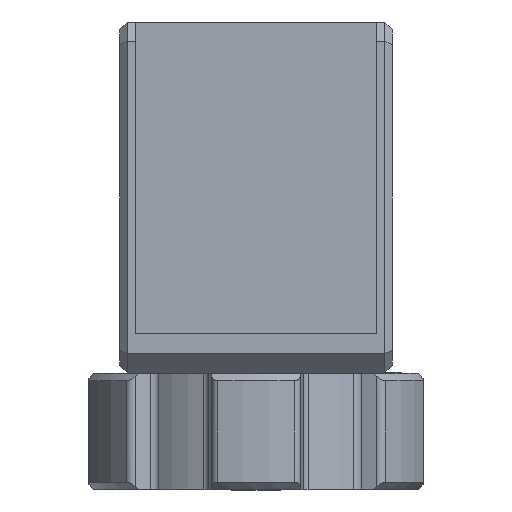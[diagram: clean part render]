
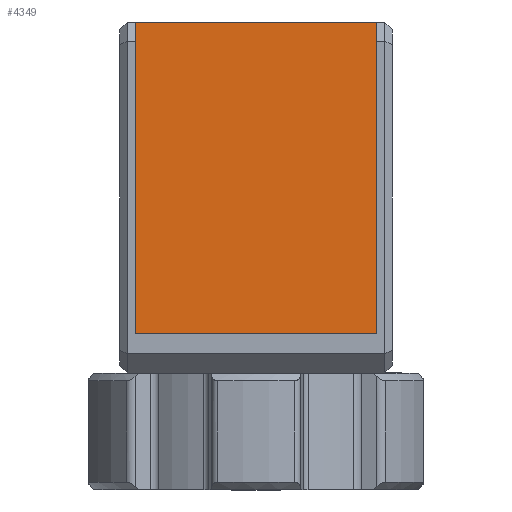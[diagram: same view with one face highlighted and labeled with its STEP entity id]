
A CAD part, front view. The second image highlights one B-rep face of the part: STEP entity #4349.
In plain terms, the highlighted planar face has unit normal (0, -1, 0).
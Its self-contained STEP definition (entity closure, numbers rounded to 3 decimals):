
#651=FACE_OUTER_BOUND('',#896,.T.);
#896=EDGE_LOOP('',(#3988,#3989,#3990,#3991));
#1210=LINE('',#13571,#1590);
#1214=LINE('',#13578,#1594);
#1263=LINE('',#13682,#1643);
#1277=LINE('',#13716,#1657);
#1590=VECTOR('',#5546,10.);
#1594=VECTOR('',#5552,10.);
#1643=VECTOR('',#5643,10.);
#1657=VECTOR('',#5685,10.);
#2024=VERTEX_POINT('',#13568);
#2025=VERTEX_POINT('',#13570);
#2027=VERTEX_POINT('',#13576);
#2061=VERTEX_POINT('',#13680);
#2637=EDGE_CURVE('',#2024,#2025,#1210,.T.);
#2641=EDGE_CURVE('',#2024,#2027,#1214,.T.);
#2693=EDGE_CURVE('',#2061,#2027,#1263,.T.);
#2710=EDGE_CURVE('',#2025,#2061,#1277,.T.);
#3988=ORIENTED_EDGE('',*,*,#2710,.F.);
#3989=ORIENTED_EDGE('',*,*,#2637,.F.);
#3990=ORIENTED_EDGE('',*,*,#2641,.T.);
#3991=ORIENTED_EDGE('',*,*,#2693,.F.);
#4109=PLANE('',#4678);
#4349=ADVANCED_FACE('',(#651),#4109,.T.);
#4678=AXIS2_PLACEMENT_3D('',#13715,#5683,#5684);
#5546=DIRECTION('',(-1.,0.,0.));
#5552=DIRECTION('',(0.,0.,1.));
#5643=DIRECTION('',(1.,0.,0.));
#5683=DIRECTION('center_axis',(0.,-1.,0.));
#5684=DIRECTION('ref_axis',(1.,0.,0.));
#5685=DIRECTION('',(0.,0.,1.));
#13568=CARTESIAN_POINT('',(15.5,-66.257,-17.5));
#13570=CARTESIAN_POINT('',(-15.5,-66.257,-17.5));
#13571=CARTESIAN_POINT('',(15.5,-66.257,-17.5));
#13576=CARTESIAN_POINT('',(15.5,-66.257,22.5));
#13578=CARTESIAN_POINT('',(15.5,-66.257,-17.5));
#13680=CARTESIAN_POINT('',(-15.5,-66.257,22.5));
#13682=CARTESIAN_POINT('',(-7.75,-66.257,22.5));
#13715=CARTESIAN_POINT('Origin',(-15.5,-66.257,-17.5));
#13716=CARTESIAN_POINT('',(-15.5,-66.257,-17.5));
